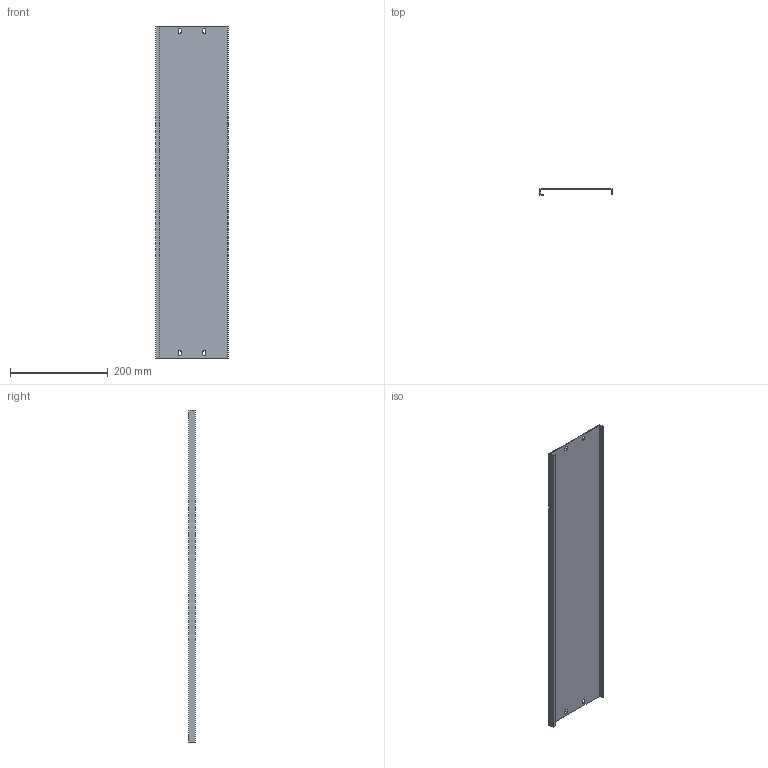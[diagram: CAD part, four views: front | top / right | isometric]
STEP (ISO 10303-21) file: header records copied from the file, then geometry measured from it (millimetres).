
FILE_DESCRIPTION (( 'STEP AP214' ), '1' );
FILE_NAME ('FO-00-PVS-015-080 Ïëàñòðîí ãëóõîé âíóòðåííèé 150õ800.STEP', '2025-08-26T10:33:34', ( '' ), ( '' ), 'SwSTEP 2.0', 'SolidWorks 2023', '' );
FILE_SCHEMA (( 'AUTOMOTIVE_DESIGN' ));
Length unit declared in the file: millimetre
Products named in the file (1): FO-00-PVS-015-080 Пластрон глухой внутренний 150х800
Bounding box: 148 x 12.5 x 679 mm (x, y, z)
Volume: 176862.1 mm3; surface area: 238543.1 mm2
Topology: 1 solids, 1 shells, 42 faces, 120 edges, 80 vertices
Faces by surface type: plane 30, cylinder 12
Entity records: 1407 total; most frequent: CARTESIAN_POINT 243, ORIENTED_EDGE 240, DIRECTION 230, EDGE_CURVE 120, LINE 96, VECTOR 96, VERTEX_POINT 80, AXIS2_PLACEMENT_3D 67
